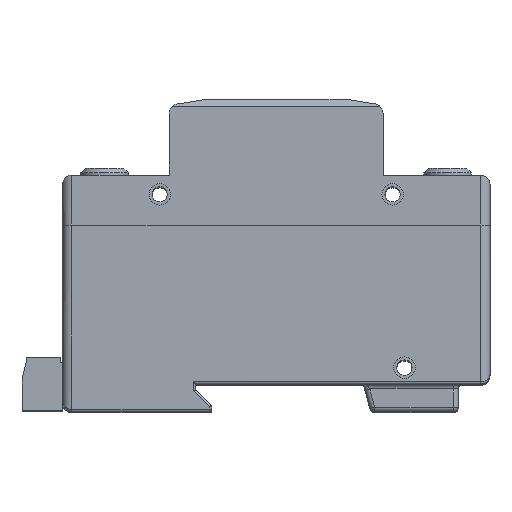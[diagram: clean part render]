
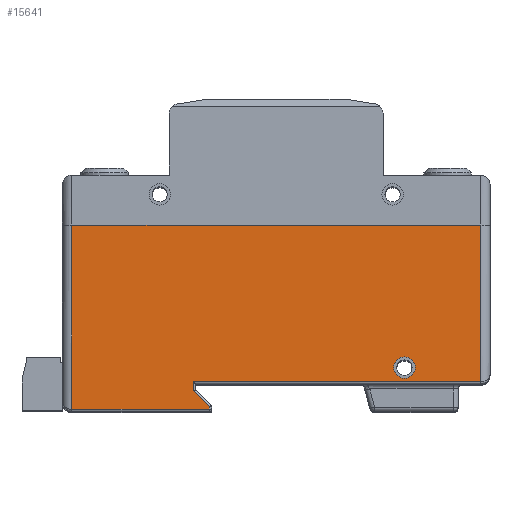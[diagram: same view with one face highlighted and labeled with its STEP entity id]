
A CAD part, top view. The second image highlights one B-rep face of the part: STEP entity #15641.
In plain terms, the highlighted planar face has unit normal (0, 0, 1).
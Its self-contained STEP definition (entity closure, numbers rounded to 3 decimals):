
#566=CIRCLE('',#17004,2.25);
#567=CIRCLE('',#17005,2.25);
#1003=FACE_BOUND('',#2513,.T.);
#1563=FACE_OUTER_BOUND('',#2512,.T.);
#2512=EDGE_LOOP('',(#12604,#12605,#12606,#12607,#12608,#12609,#12610,#12611));
#2513=EDGE_LOOP('',(#12612,#12613));
#3940=LINE('',#25056,#5649);
#4010=LINE('',#25219,#5719);
#4016=LINE('',#25234,#5725);
#4017=LINE('',#25236,#5726);
#4018=LINE('',#25238,#5727);
#4019=LINE('',#25240,#5728);
#4020=LINE('',#25242,#5729);
#4021=LINE('',#25243,#5730);
#5649=VECTOR('',#20090,10.);
#5719=VECTOR('',#20220,10.);
#5725=VECTOR('',#20234,10.);
#5726=VECTOR('',#20235,10.);
#5727=VECTOR('',#20236,10.);
#5728=VECTOR('',#20237,10.);
#5729=VECTOR('',#20238,10.);
#5730=VECTOR('',#20239,10.);
#7178=VERTEX_POINT('',#25053);
#7179=VERTEX_POINT('',#25055);
#7242=VERTEX_POINT('',#25217);
#7247=VERTEX_POINT('',#25233);
#7248=VERTEX_POINT('',#25235);
#7249=VERTEX_POINT('',#25237);
#7250=VERTEX_POINT('',#25239);
#7251=VERTEX_POINT('',#25241);
#7252=VERTEX_POINT('',#25244);
#7253=VERTEX_POINT('',#25245);
#9053=EDGE_CURVE('',#7179,#7178,#3940,.T.);
#9136=EDGE_CURVE('',#7242,#7178,#4010,.T.);
#9143=EDGE_CURVE('',#7247,#7242,#4016,.T.);
#9144=EDGE_CURVE('',#7248,#7247,#4017,.T.);
#9145=EDGE_CURVE('',#7249,#7248,#4018,.T.);
#9146=EDGE_CURVE('',#7250,#7249,#4019,.T.);
#9147=EDGE_CURVE('',#7251,#7250,#4020,.T.);
#9148=EDGE_CURVE('',#7179,#7251,#4021,.T.);
#9149=EDGE_CURVE('',#7252,#7253,#566,.T.);
#9150=EDGE_CURVE('',#7253,#7252,#567,.T.);
#12604=ORIENTED_EDGE('',*,*,#9053,.T.);
#12605=ORIENTED_EDGE('',*,*,#9136,.F.);
#12606=ORIENTED_EDGE('',*,*,#9143,.F.);
#12607=ORIENTED_EDGE('',*,*,#9144,.F.);
#12608=ORIENTED_EDGE('',*,*,#9145,.F.);
#12609=ORIENTED_EDGE('',*,*,#9146,.F.);
#12610=ORIENTED_EDGE('',*,*,#9147,.F.);
#12611=ORIENTED_EDGE('',*,*,#9148,.F.);
#12612=ORIENTED_EDGE('',*,*,#9149,.T.);
#12613=ORIENTED_EDGE('',*,*,#9150,.T.);
#14860=PLANE('',#17003);
#15641=ADVANCED_FACE('',(#1563,#1003),#14860,.T.);
#17003=AXIS2_PLACEMENT_3D('',#25232,#20232,#20233);
#17004=AXIS2_PLACEMENT_3D('',#25246,#20240,#20241);
#17005=AXIS2_PLACEMENT_3D('',#25247,#20242,#20243);
#20090=DIRECTION('',(-1.,0.,0.));
#20220=DIRECTION('',(0.,1.,0.));
#20232=DIRECTION('center_axis',(0.,0.,1.));
#20233=DIRECTION('ref_axis',(1.,0.,0.));
#20234=DIRECTION('',(-1.,0.,0.));
#20235=DIRECTION('',(0.,-1.,0.));
#20236=DIRECTION('',(0.718,-0.696,0.));
#20237=DIRECTION('',(0.,-1.,0.));
#20238=DIRECTION('',(-1.,0.,0.));
#20239=DIRECTION('',(0.,-1.,0.));
#20240=DIRECTION('center_axis',(0.,0.,-1.));
#20241=DIRECTION('ref_axis',(1.,0.,0.));
#20242=DIRECTION('center_axis',(0.,0.,-1.));
#20243=DIRECTION('ref_axis',(1.,0.,0.));
#25053=CARTESIAN_POINT('',(-43.,3.4,35.2));
#25055=CARTESIAN_POINT('',(43.,3.4,35.2));
#25056=CARTESIAN_POINT('',(0.046,3.4,35.2));
#25217=CARTESIAN_POINT('',(-43.,-35.3,35.2));
#25219=CARTESIAN_POINT('',(-43.,4.121,35.2));
#25232=CARTESIAN_POINT('Origin',(-0.355,-5.758,35.2));
#25233=CARTESIAN_POINT('',(-14.1,-35.3,35.2));
#25234=CARTESIAN_POINT('',(-22.678,-35.3,35.2));
#25235=CARTESIAN_POINT('',(-14.1,-34.711,35.2));
#25236=CARTESIAN_POINT('',(-14.1,-20.779,35.2));
#25237=CARTESIAN_POINT('',(-17.5,-31.411,35.2));
#25238=CARTESIAN_POINT('',(-17.721,-31.197,35.2));
#25239=CARTESIAN_POINT('',(-17.5,-29.5,35.2));
#25240=CARTESIAN_POINT('',(-17.5,-18.479,35.2));
#25241=CARTESIAN_POINT('',(43.,-29.5,35.2));
#25242=CARTESIAN_POINT('',(18.972,-29.5,35.2));
#25243=CARTESIAN_POINT('',(43.,-17.879,35.2));
#25244=CARTESIAN_POINT('',(29.25,-26.5,35.2));
#25245=CARTESIAN_POINT('',(24.75,-26.5,35.2));
#25246=CARTESIAN_POINT('Origin',(27.,-26.5,35.2));
#25247=CARTESIAN_POINT('Origin',(27.,-26.5,35.2));
